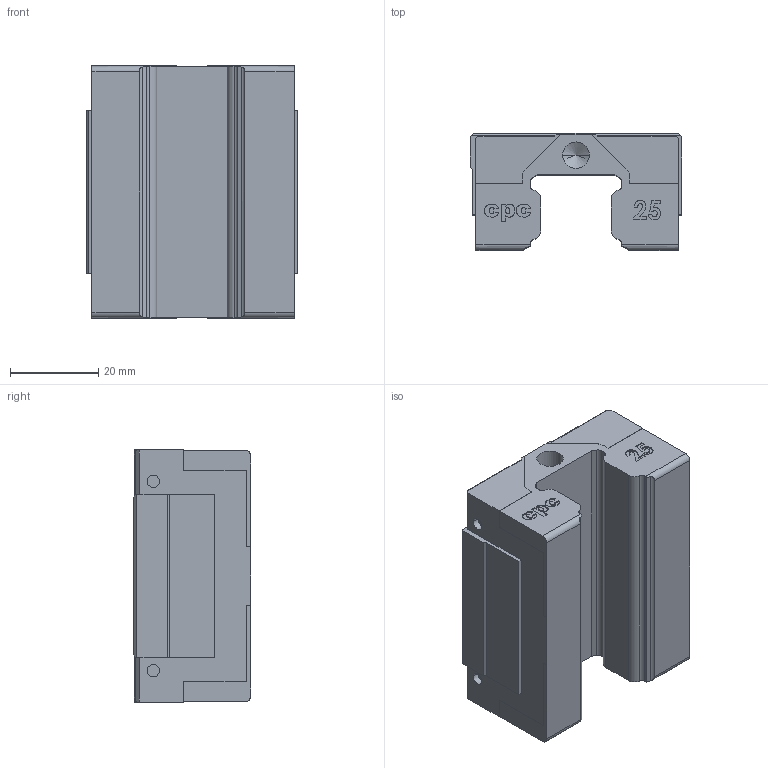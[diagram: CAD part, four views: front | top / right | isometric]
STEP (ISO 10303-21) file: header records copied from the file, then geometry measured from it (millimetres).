
FILE_DESCRIPTION (( 'STEP AP203' ), '1' );
FILE_NAME ('AR25MS.STEP', '2009-08-04T05:31:16', ( 'cpc' ), ( '' ), 'SwSTEP 2.0', 'SolidWorks 2007', '' );
FILE_SCHEMA (( 'CONFIG_CONTROL_DESIGN' ));
Length unit declared in the file: millimetre
Products named in the file (1): AR25MS
Bounding box: 48 x 26.6 x 57.2 mm (x, y, z)
Volume: 52084.3 mm3; surface area: 13019.8 mm2
Topology: 1 solids, 1 shells, 296 faces, 804 edges, 528 vertices
Faces by surface type: plane 146, bspline 86, cylinder 52, cone 12
Entity records: 13677 total; most frequent: CARTESIAN_POINT 6715, ORIENTED_EDGE 1592, DIRECTION 1126, EDGE_CURVE 796, VERTEX_POINT 528, VECTOR 512, LINE 512, EDGE_LOOP 322
